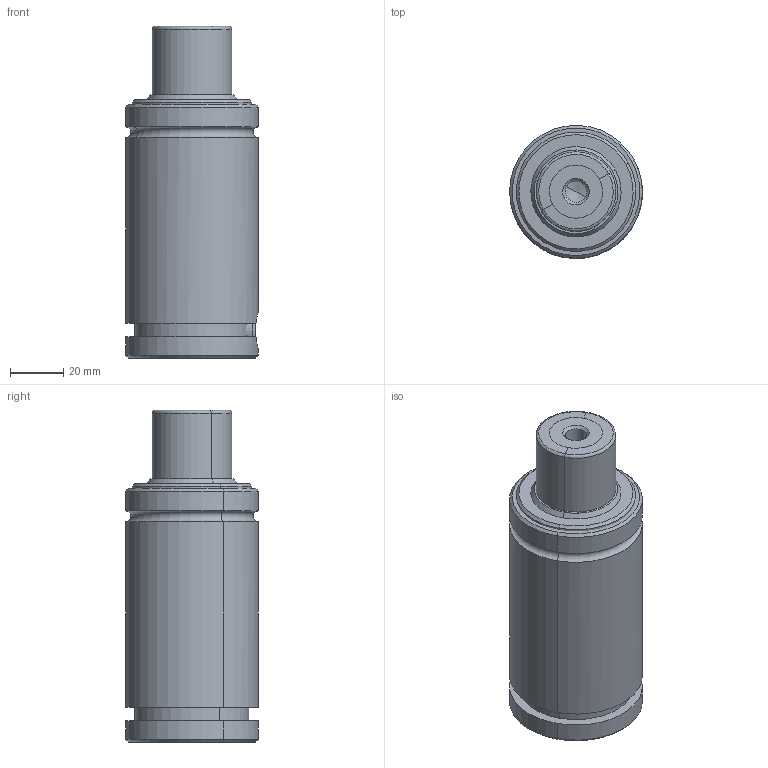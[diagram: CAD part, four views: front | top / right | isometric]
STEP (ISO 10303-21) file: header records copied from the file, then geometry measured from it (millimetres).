
FILE_DESCRIPTION(('CATIA V5 STEP Exchange'),'2;1');
FILE_NAME('W:\CATALOGO GENERAL 2018\FICHEROS CAD\006-TPF\TPFS 2000\TPFS 2000x25.stp','2017-11-21T14:48:31+00:00',('none'),('none'),'CATIA Version 5 Release 17 (IN-10)','CATIA V5 STEP AP203','none');
FILE_SCHEMA(('CONFIG_CONTROL_DESIGN'));
Length unit declared in the file: millimetre
Products named in the file (1): TPFS 2000x25
Assembly tree (3 placements, depth 2):
  TPFS 2000x25
    #56
    #1339
    #1920
Bounding box: 49.99 x 49.99 x 125 mm (x, y, z)
Volume: 243459.5 mm3; surface area: 34194.5 mm2
Topology: 4 solids, 4 shells, 150 faces, 318 edges, 180 vertices
Faces by surface type: cone 58, cylinder 37, torus 30, plane 25
Entity records: 3661 total; most frequent: CARTESIAN_POINT 665, ORIENTED_EDGE 620, DIRECTION 502, EDGE_CURVE 310, AXIS2_PLACEMENT_3D 289, CIRCLE 186, VERTEX_POINT 180, EDGE_LOOP 164
